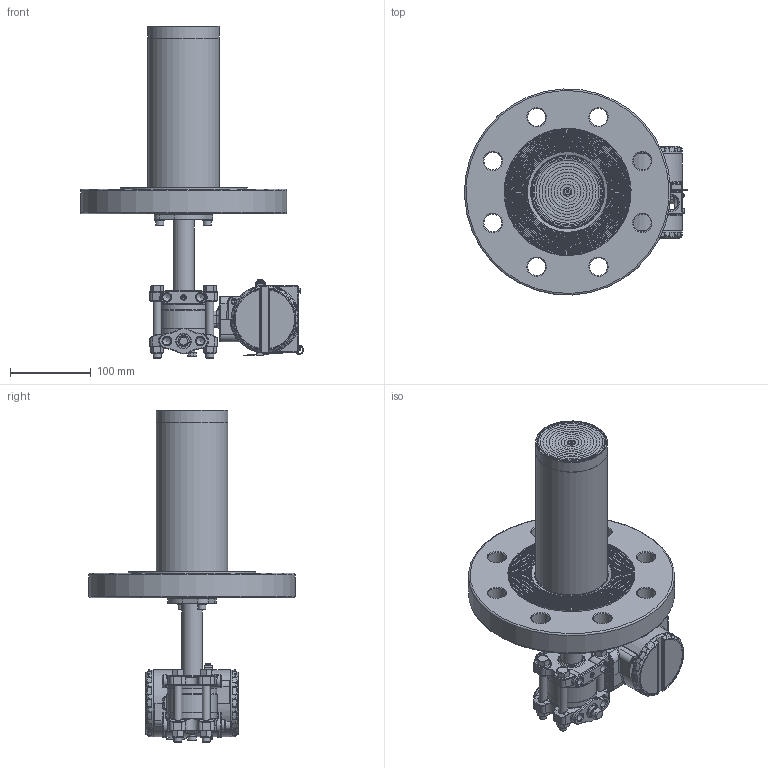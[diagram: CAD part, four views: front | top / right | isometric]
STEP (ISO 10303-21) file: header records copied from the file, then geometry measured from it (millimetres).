
FILE_DESCRIPTION(/* description */ (''),/* implementation_level */ '2;1');
FILE_NAME(/* name */ 'F:\Area\Desenvolvimento_2\Projects\Sensor\projetos\LD30X\montagens 3d - clientes\SELO NIVEL\LD30XL 4-300 RF ext 200 ref 1-4NPT purga acima.stp',/* time_stamp */ '2023-02-15T08:36:28-03:00',/* author */ ('inventor02'),/* organization */ (''),/* preprocessor_version */ 'ST-DEVELOPER v17',/* originating_system */ 'Autodesk Inventor 2019',/* authorisation */ '');
FILE_SCHEMA (('CONFIG_CONTROL_DESIGN'));
Products named in the file (41): LD30XL 4-300 RF ext 200 ref 1-4NPT purga acima; 204-0301-L-4 300 RF ext 200 purga acima; nivel fx3 com baixa diferencial 1-4NPT purga acima; involucro fx0-3 apos a usinagem final; flange diferencial std purga; 101-C-7484-01 flange selo nivel VR; 201-A-0504-tubo união teste 1; bujao 1-4NPT; Sangria; Porca 3-8 x 16 UNC; Paraf. 3-8 x 16 UNC; adaptação tubo x flanges 1-1-2 a 4pol; 101-B-0161-anel cortado do tubo - teste1; 101-B-0162-flange fixação tubo; ANSI B18.3.1M - M6x1 x 16; DIN 127 - A 6; flange 4 300 ext 200; 101-C-0123-09; 096-B-0212-15; 101-B-7702-02 ext 4-200; carcaça vazia com tampas e plaqueta; carcaça LD inox sem letras; Subconjunto plaqueta 300; Plaqueta transmissor; Parafuso da Plaqueta; Rebite da Plaqueta; 096-A-0169-03; 101-A-0502-01; Chapa aterramento externo; ISO 1207 - M4 x 8; DIN 915 - M6 x 10; ANSI B18.3.1M - M4x0,7 x 8; Subconjunto tampa com visor aluminio; tampa pintada; VIDRO DO VISOR; oring 41x1 vidro tampa; Trava do vidro da tampa com visor; trava do vidro VH256; Subconjunto tampa sem visor-aluminio; tampa cega 300 pintada p0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
Assembly tree (51 placements, depth 4):
  LD30XL 4-300 RF ext 200 ref 1-4NPT purga acima
    204-0301-L-4 300 RF ext 200 purga acima
      nivel fx3 com baixa diferencial 1-4NPT purga acima
        involucro fx0-3 apos a usinagem final
        flange diferencial std purga
        101-C-7484-01 flange selo nivel VR
        201-A-0504-tubo união teste 1
        DIN 915 - M6 x 10
        bujao 1-4NPT
        Sangria
        Porca 3-8 x 16 UNC  x4
        Paraf. 3-8 x 16 UNC  x4
      adaptação tubo x flanges 1-1-2 a 4pol
        101-B-0161-anel cortado do tubo - teste1
        101-B-0162-flange fixação tubo
        ANSI B18.3.1M - M6x1 x 16  x2
        DIN 127 - A 6  x2
      flange 4 300 ext 200
        101-C-0123-09
        096-B-0212-15
        101-B-7702-02 ext 4-200
    carcaça vazia com tampas e plaqueta
      carcaça LD inox sem letras
      Subconjunto plaqueta 300
        Plaqueta transmissor
        Parafuso da Plaqueta
        Rebite da Plaqueta
        096-A-0169-03
        101-A-0502-01
      Chapa aterramento externo
      ISO 1207 - M4 x 8
      DIN 915 - M6 x 10
      ANSI B18.3.1M - M4x0,7 x 8  x2
      Subconjunto tampa com visor aluminio
        tampa pintada
        VIDRO DO VISOR
        oring 41x1 vidro tampa
        Trava do vidro da tampa com visor
        trava do vidro VH256
        00034775-0
      Subconjunto tampa sem visor-aluminio
        tampa cega 300 pintada p0
        00034775-0
Bounding box: 275.66 x 254.76 x 410.5 mm (x, y, z)
Volume: 2426335.7 mm3; surface area: 510829.3 mm2
Topology: 43 solids, 43 shells, 2799 faces, 6669 edges, 3956 vertices
Faces by surface type: bspline 666, cylinder 660, plane 590, torus 501, cone 256, sphere 126
Full cylindrical faces by diameter (mm): 2 x4, 2.1 x2, 2.459 x5, 2.5 x1, 2.642 x1, 2.7 x1, 2.8 x1, 3 x4, 3.242 x4, 3.5 x5, 3.571 x1, 4 x5, 4.3 x1, 4.4 x1, 4.917 x4, 5 x1, 5.5 x3, 6 x6, 6.647 x1, 7 x7, 7.087 x2, 7.6 x2, 7.798 x4, 8 x1, 8.7 x2, 9.525 x4, 9.728 x6, 10 x2, 10.5 x8, 10.719 x2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
Entity records: 96160 total; most frequent: CARTESIAN_POINT 34873, DIRECTION 12703, ORIENTED_EDGE 12518, EDGE_CURVE 6259, AXIS2_PLACEMENT_3D 5624, VERTEX_POINT 3762, CIRCLE 3335, EDGE_LOOP 2877
